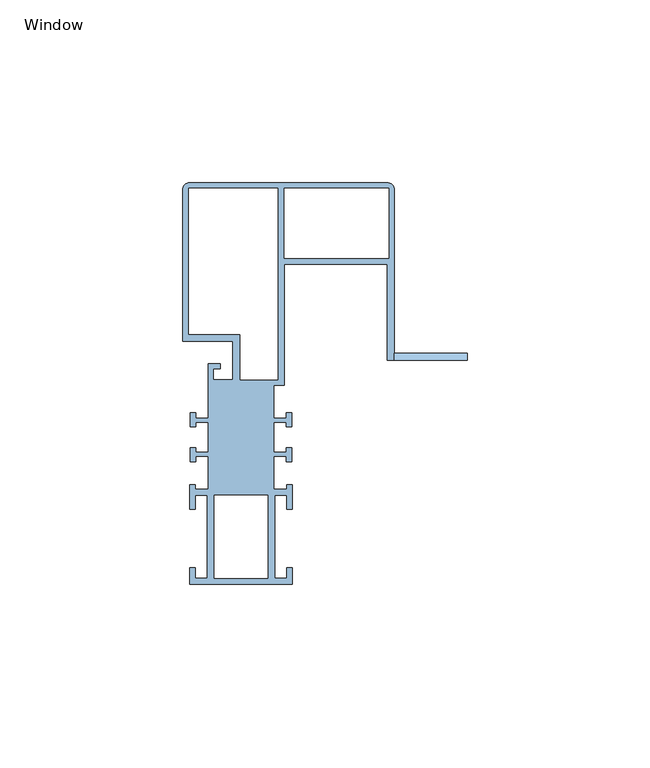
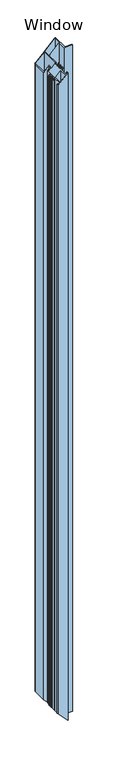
"""IFC4 building model written with IfcOpenShell, lengths in millimetres: window geometry, QO-H-QBISS_Window Module : Window."""

from ifc_helpers import new_model, si_unit, frame, origin, place, context, project, spatial, ellipse_curve, source, transform, mapped, element, save
from ifc_brep_helpers import plane_surface, cylinder_surface, advanced_brep


def window_a3d85fab(model_context):
    return source(origin(), model_context, "Body", "AdvancedBrep", [
        advanced_brep(
        [(986.7500002, -46.7, -4.0), (1006.7490836, -46.7, -4.0), (1006.7490836, -48.7, -4.0), (986.7500002, -48.7, -4.0), (986.7500002, -46.7, 1973.0), (1006.7490836, -46.7, 1973.0), (1006.7490836, -48.7, 1973.0), (986.7500002, -48.7, 1973.0), (984.7490836, -48.7, 1970.9990835), (984.7490836, -48.7, -1.9990835), (984.7490836, -22.4, -1.9990835), (956.5500002, -22.4, 26.2), (956.5500002, -55.4999986, 26.2), (953.7023461, -55.4999986, 29.0476541), (953.7023461, -64.5037405, 29.0476541), (957.2023459, -64.5037405, 25.5476542), (957.2023459, -63.0037405, 25.5476542), (958.7023459, -63.0037405, 24.0476542), (958.7023459, -66.9037405, 24.0476542), (957.2023459, -66.9037405, 25.5476542), (957.2023459, -65.7037405, 25.5476542), (953.7023459, -65.7037405, 29.0476542), (953.7023459, -73.8037405, 29.0476542), (957.2023459, -73.8037405, 25.5476542), (957.2023459, -72.6037405, 25.5476542), (958.7023459, -72.6037405, 24.0476542), (958.7023459, -76.5037405, 24.0476542), (957.2023459, -76.5037405, 25.5476542), (957.2023459, -75.0037405, 25.5476542), (953.7023453, -75.0037405, 29.0476548), (953.7023453, -84.0037561, 29.0476548), (957.2518297, -84.0037561, 25.4981705), (957.2518297, -82.8037561, 25.4981705), (958.7518297, -82.8037561, 23.9981705), (958.7518297, -89.5037561, 23.9981705), (957.2518297, -89.5037561, 25.4981705), (957.2518297, -85.7037561, 25.4981705), (953.9518297, -85.7037561, 28.7981705), (953.9518297, -108.3037561, 28.7981705), (957.2518297, -108.3037561, 25.4981705), (957.2518297, -105.5037561, 25.4981705), (958.7518297, -105.5037561, 23.9981705), (958.7518297, -110.0037561, 23.9981705), (930.7518297, -110.0037561, 51.9981705), (930.7518297, -105.5037561, 51.9981705), (932.2518297, -105.5037561, 50.4981705), (932.2518297, -108.3037561, 50.4981705), (935.5518297, -108.3037561, 47.1981705), (935.5518297, -85.7037561, 47.1981705), (932.2518297, -85.7037561, 50.4981705), (932.2518297, -89.5037561, 50.4981705), (930.7518297, -89.5037561, 51.9981705), (930.7518297, -82.8037561, 51.9981705), (932.2518297, -82.8037561, 50.4981705), (932.2518297, -84.0037561, 50.4981705), (935.8013141, -84.0037561, 46.9486861), (935.8013141, -75.0037405, 46.9486861), (932.3013135, -75.0037405, 50.4486867), (932.3013135, -76.5037405, 50.4486867), (930.8013135, -76.5037405, 51.9486867), (930.8013135, -72.6037405, 51.9486867), (932.3013135, -72.6037405, 50.4486867), (932.3013135, -73.8037405, 50.4486867), (935.8013135, -73.8037405, 46.9486867), (935.8013135, -65.7037405, 46.9486867), (932.3013135, -65.7037405, 50.4486867), (932.3013135, -66.9037405, 50.4486867), (930.8013135, -66.9037405, 51.9486867), (930.8013135, -63.0037405, 51.9486867), (932.3013135, -63.0037405, 50.4486867), (932.3013135, -64.5037405, 50.4486867), (935.7500002, -64.5037405, 47.0), (935.7500002, -49.6, 47.0), (939.0500002, -49.6, 43.7), (939.0500002, -51.0, 43.7), (937.1500002, -51.0, 45.6), (937.1500002, -54.0, 45.6), (942.5500002, -54.0, 40.2), (942.5500002, -43.5, 40.2), (928.7500002, -43.5, 54.0), (928.7500002, -2.0, 54.0), (930.7500002, 0.0, 52.0), (984.7500002, 0.0, -2.0), (986.7500002, -2.0, -4.0), (985.2500002, -1.5, -2.5), (956.5500002, -1.5, 26.2), (956.5500002, -20.7, 26.2), (985.2500002, -20.7, -2.5), (930.4500002, -41.5, 52.3), (944.5500002, -41.5, 38.2), (944.5500002, -54.0, 38.2), (954.8500002, -54.0, 27.9), (954.8500002, -1.5, 27.9), (930.4500002, -1.5, 52.3), (937.4518297, -85.7037561, 45.2981705), (937.4518297, -108.3037561, 45.2981705), (952.0518297, -108.3037561, 30.6981705), (952.0518297, -85.7037561, 30.6981705), (957.2023459, -75.0037405, 1943.4523458), (953.7023453, -75.0037405, 1939.9523452), (957.2023459, -76.5037405, 1943.4523458), (953.7023453, -84.0037561, 1939.9523452), (958.7023459, -76.5037405, 1944.9523458), (958.7023459, -72.6037405, 1944.9523458), (957.2023459, -72.6037405, 1943.4523458), (957.2023459, -73.8037405, 1943.4523458), (953.7023459, -73.8037405, 1939.9523458), (953.7023459, -65.7037405, 1939.9523458), (957.2023459, -65.7037405, 1943.4523458), (957.2023459, -66.9037405, 1943.4523458), (958.7023459, -66.9037405, 1944.9523458), (958.7023459, -63.0037405, 1944.9523458), (957.2023459, -63.0037405, 1943.4523458), (957.2023459, -64.5037405, 1943.4523458), (953.7023461, -64.5037405, 1939.9523459), (953.7023461, -55.4999986, 1939.9523459), (956.5500002, -55.4999986, 1942.8), (956.5500002, -22.4, 1942.8), (984.7490836, -22.4, 1970.9990835), (986.7500002, -2.0, 1973.0), (984.7500002, 0.0, 1971.0), (930.7500002, 0.0, 1917.0), (928.7500002, -2.0, 1915.0), (928.7500002, -43.5, 1915.0), (942.5500002, -43.5, 1928.8), (942.5500002, -54.0, 1928.8), (937.1500002, -54.0, 1923.4), (937.1500002, -51.0, 1923.4), (939.0500002, -51.0, 1925.3), (939.0500002, -49.6, 1925.3), (935.7500002, -49.6, 1922.0), (935.7500002, -64.5037405, 1922.0), (932.3013135, -64.5037405, 1918.5513133), (932.3013135, -63.0037405, 1918.5513133), (930.8013135, -63.0037405, 1917.0513133), (930.8013135, -66.9037405, 1917.0513133), (932.3013135, -66.9037405, 1918.5513133), (932.3013135, -65.7037405, 1918.5513133), (935.8013135, -65.7037405, 1922.0513133), (935.8013135, -73.8037405, 1922.0513133), (932.3013135, -73.8037405, 1918.5513133), (932.3013135, -72.6037405, 1918.5513133), (930.8013135, -72.6037405, 1917.0513133), (930.8013135, -76.5037405, 1917.0513133), (932.3013135, -76.5037405, 1918.5513133), (932.3013135, -75.0037405, 1918.5513133), (935.8013141, -75.0037405, 1922.0513139), (935.8013141, -84.0037561, 1922.0513139), (932.2518297, -84.0037561, 1918.5018295), (932.2518297, -82.8037561, 1918.5018295), (930.7518297, -82.8037561, 1917.0018295), (930.7518297, -89.5037561, 1917.0018295), (932.2518297, -89.5037561, 1918.5018295), (932.2518297, -85.7037561, 1918.5018295), (935.5518297, -85.7037561, 1921.8018295), (935.5518297, -108.3037561, 1921.8018295), (932.2518297, -108.3037561, 1918.5018295), (932.2518297, -105.5037561, 1918.5018295), (930.7518297, -105.5037561, 1917.0018295), (930.7518297, -110.0037561, 1917.0018295), (958.7518297, -110.0037561, 1945.0018295), (958.7518297, -105.5037561, 1945.0018295), (957.2518297, -105.5037561, 1943.5018295), (957.2518297, -108.3037561, 1943.5018295), (953.9518297, -108.3037561, 1940.2018295), (953.9518297, -85.7037561, 1940.2018295), (957.2518297, -85.7037561, 1943.5018295), (957.2518297, -89.5037561, 1943.5018295), (958.7518297, -89.5037561, 1945.0018295), (958.7518297, -82.8037561, 1945.0018295), (957.2518297, -82.8037561, 1943.5018295), (957.2518297, -84.0037561, 1943.5018295), (985.2500002, -1.5, 1971.5), (956.5500002, -1.5, 1942.8), (985.2500002, -20.7, 1971.5), (956.5500002, -20.7, 1942.8), (930.4500002, -41.5, 1916.7), (944.5500002, -41.5, 1930.8), (930.4500002, -1.5, 1916.7), (944.5500002, -54.0, 1930.8), (954.8500002, -1.5, 1941.1), (954.8500002, -54.0, 1941.1), (937.4518297, -85.7037561, 1923.7018295), (937.4518297, -108.3037561, 1923.7018295), (952.0518297, -85.7037561, 1938.3018295), (952.0518297, -108.3037561, 1938.3018295)],
        [
            (0, 1),
            (1, 2),
            (2, 3),
            (3, 0),
            (4, 5),
            (5, 1),
            (0, 4),
            (5, 6),
            (6, 2),
            (6, 7),
            (7, 8),
            (8, 9),
            (9, 3),
            (9, 10),
            (10, 11),
            (11, 12),
            (12, 13),
            (13, 14),
            (14, 15),
            (15, 16),
            (16, 17),
            (17, 18),
            (18, 19),
            (19, 20),
            (20, 21),
            (21, 22),
            (22, 23),
            (23, 24),
            (24, 25),
            (25, 26),
            (26, 27),
            (27, 28),
            (28, 29),
            (29, 30),
            (30, 31),
            (31, 32),
            (32, 33),
            (33, 34),
            (34, 35),
            (35, 36),
            (36, 37),
            (37, 38),
            (38, 39),
            (39, 40),
            (40, 41),
            (41, 42),
            (42, 43),
            (43, 44),
            (44, 45),
            (45, 46),
            (46, 47),
            (47, 48),
            (48, 49),
            (49, 50),
            (50, 51),
            (51, 52),
            (52, 53),
            (53, 54),
            (54, 55),
            (55, 56),
            (56, 57),
            (57, 58),
            (58, 59),
            (59, 60),
            (60, 61),
            (61, 62),
            (62, 63),
            (63, 64),
            (64, 65),
            (65, 66),
            (66, 67),
            (67, 68),
            (68, 69),
            (69, 70),
            (70, 71),
            (71, 72),
            (72, 73),
            (73, 74),
            (74, 75),
            (75, 76),
            (76, 77),
            (77, 78),
            (78, 79),
            (79, 80),
            (80, 81, ellipse_curve(frame((930.7500002, -2.0, 52.0), z_axis=(-0.7071067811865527, 0.0, -0.7071067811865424), x_axis=(-0.7071067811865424, 0.0, 0.7071067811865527)), 2.8284271, 2.0)),
            (81, 82),
            (82, 83, ellipse_curve(frame((984.7500002, -2.0, -2.0), z_axis=(-0.7071067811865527, 0.0, -0.7071067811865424), x_axis=(-0.7071067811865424, 0.0, 0.7071067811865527)), 2.8284271, 2.0)),
            (83, 0),
            (84, 85),
            (85, 86),
            (86, 87),
            (87, 84),
            (88, 89),
            (89, 90),
            (90, 91),
            (91, 92),
            (92, 93),
            (93, 88),
            (94, 95),
            (95, 96),
            (96, 97),
            (97, 94),
            (28, 98),
            (98, 99),
            (99, 29),
            (27, 100),
            (100, 98),
            (99, 101),
            (101, 30),
            (26, 102),
            (102, 100),
            (25, 103),
            (103, 102),
            (24, 104),
            (104, 103),
            (23, 105),
            (105, 104),
            (22, 106),
            (106, 105),
            (21, 107),
            (107, 106),
            (20, 108),
            (108, 107),
            (19, 109),
            (109, 108),
            (18, 110),
            (110, 109),
            (17, 111),
            (111, 110),
            (16, 112),
            (112, 111),
            (15, 113),
            (113, 112),
            (14, 114),
            (114, 113),
            (13, 115),
            (115, 114),
            (12, 116),
            (116, 115),
            (11, 117),
            (117, 116),
            (10, 118),
            (118, 117),
            (8, 118),
            (83, 119),
            (119, 4),
            (82, 120),
            (120, 119, ellipse_curve(frame((984.7500002, -2.0, 1971.0), z_axis=(0.7071067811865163, 0.0, -0.7071067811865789), x_axis=(0.7071067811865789, 0.0, 0.7071067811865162)), 2.8284271, 2.0)),
            (81, 121),
            (121, 120),
            (80, 122),
            (122, 121, ellipse_curve(frame((930.7500002, -2.0, 1917.0), z_axis=(0.7071067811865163, 0.0, -0.7071067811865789), x_axis=(0.7071067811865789, 0.0, 0.7071067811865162)), 2.8284271, 2.0)),
            (79, 123),
            (123, 122),
            (78, 124),
            (124, 123),
            (77, 125),
            (125, 124),
            (76, 126),
            (126, 125),
            (75, 127),
            (127, 126),
            (74, 128),
            (128, 127),
            (73, 129),
            (129, 128),
            (72, 130),
            (130, 129),
            (71, 131),
            (131, 130),
            (70, 132),
            (132, 131),
            (69, 133),
            (133, 132),
            (68, 134),
            (134, 133),
            (67, 135),
            (135, 134),
            (66, 136),
            (136, 135),
            (65, 137),
            (137, 136),
            (64, 138),
            (138, 137),
            (63, 139),
            (139, 138),
            (62, 140),
            (140, 139),
            (61, 141),
            (141, 140),
            (60, 142),
            (142, 141),
            (59, 143),
            (143, 142),
            (58, 144),
            (144, 143),
            (57, 145),
            (145, 144),
            (56, 146),
            (146, 145),
            (55, 147),
            (147, 146),
            (54, 148),
            (148, 147),
            (53, 149),
            (149, 148),
            (52, 150),
            (150, 149),
            (51, 151),
            (151, 150),
            (50, 152),
            (152, 151),
            (49, 153),
            (153, 152),
            (48, 154),
            (154, 153),
            (47, 155),
            (155, 154),
            (46, 156),
            (156, 155),
            (45, 157),
            (157, 156),
            (44, 158),
            (158, 157),
            (43, 159),
            (159, 158),
            (42, 160),
            (160, 159),
            (41, 161),
            (161, 160),
            (40, 162),
            (162, 161),
            (39, 163),
            (163, 162),
            (38, 164),
            (164, 163),
            (37, 165),
            (165, 164),
            (36, 166),
            (166, 165),
            (35, 167),
            (167, 166),
            (34, 168),
            (168, 167),
            (33, 169),
            (169, 168),
            (32, 170),
            (170, 169),
            (31, 171),
            (171, 170),
            (101, 171),
            (84, 172),
            (172, 173),
            (173, 85),
            (87, 174),
            (174, 172),
            (173, 175),
            (175, 86),
            (175, 174),
            (88, 176),
            (176, 177),
            (177, 89),
            (93, 178),
            (178, 176),
            (177, 179),
            (179, 90),
            (92, 180),
            (180, 178),
            (91, 181),
            (181, 180),
            (179, 181),
            (94, 182),
            (182, 183),
            (183, 95),
            (97, 184),
            (184, 182),
            (183, 185),
            (185, 96),
            (185, 184),
            (4, 7),
        ],
        [
            plane_surface(frame((999.2500002, 0.0, -4.0), z_axis=(0.0, 0.0, -1.0), x_axis=(0.0, -1.0, 0.0))),
            plane_surface(frame((1006.7490836, -46.7, 1973.0), z_axis=(0.0, 1.0, 0.0), x_axis=(0.0, 0.0, -1.0))),
            plane_surface(frame((1006.7490836, -48.7, 1973.0), z_axis=(1.0, 0.0, 0.0), x_axis=(0.0, 0.0, -1.0))),
            plane_surface(frame((984.7490836, -48.7, 1973.0), z_axis=(0.0, -1.0, 0.0), x_axis=(0.0, 0.0, -1.0))),
            plane_surface(frame((986.7500002, -180.0, -4.0), z_axis=(-0.7071067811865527, 0.0, -0.7071067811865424), x_axis=(0.0, 1.0, 0.0))),
            plane_surface(frame((953.7023453, -75.0037405, 1973.0), z_axis=(0.0, -1.0, 0.0), x_axis=(0.0, 0.0, -1.0))),
            plane_surface(frame((957.2023459, -75.0037405, 1973.0), z_axis=(-1.0, 0.0, 0.0), x_axis=(0.0, 0.0, -1.0))),
            plane_surface(frame((953.7023453, -84.0037561, 1973.0), z_axis=(1.0, 0.0, 0.0), x_axis=(0.0, 0.0, -1.0))),
            plane_surface(frame((957.2023459, -76.5037405, 1973.0), z_axis=(0.0, -1.0, 0.0), x_axis=(0.0, 0.0, -1.0))),
            plane_surface(frame((958.7023459, -76.5037405, 1973.0), z_axis=(1.0, 0.0, 0.0), x_axis=(0.0, 0.0, -1.0))),
            plane_surface(frame((958.7023459, -72.6037405, 1973.0), z_axis=(0.0, 1.0, 0.0), x_axis=(0.0, 0.0, -1.0))),
            plane_surface(frame((957.2023459, -72.6037405, 1973.0), z_axis=(-1.0, 0.0, 0.0), x_axis=(0.0, 0.0, -1.0))),
            plane_surface(frame((957.2023459, -73.8037405, 1973.0), z_axis=(0.0, 1.0, 0.0), x_axis=(0.0, 0.0, -1.0))),
            plane_surface(frame((953.7023459, -73.8037405, 1973.0), z_axis=(1.0, 0.0, 0.0), x_axis=(0.0, 0.0, -1.0))),
            plane_surface(frame((953.7023459, -65.7037405, 1973.0), z_axis=(0.0, -1.0, 0.0), x_axis=(0.0, 0.0, -1.0))),
            plane_surface(frame((957.2023459, -65.7037405, 1973.0), z_axis=(-1.0, 0.0, 0.0), x_axis=(0.0, 0.0, -1.0))),
            plane_surface(frame((957.2023459, -66.9037405, 1973.0), z_axis=(0.0, -1.0, 0.0), x_axis=(0.0, 0.0, -1.0))),
            plane_surface(frame((958.7023459, -66.9037405, 1973.0), z_axis=(1.0, 0.0, 0.0), x_axis=(0.0, 0.0, -1.0))),
            plane_surface(frame((958.7023459, -63.0037405, 1973.0), z_axis=(0.0, 1.0, 0.0), x_axis=(0.0, 0.0, -1.0))),
            plane_surface(frame((957.2023459, -63.0037405, 1973.0), z_axis=(-1.0, 0.0, 0.0), x_axis=(0.0, 0.0, -1.0))),
            plane_surface(frame((957.2023459, -64.5037405, 1973.0), z_axis=(0.0, 1.0, 0.0), x_axis=(0.0, 0.0, -1.0))),
            plane_surface(frame((953.7023461, -64.5037405, 1973.0), z_axis=(1.0, 0.0, 0.0), x_axis=(0.0, 0.0, -1.0))),
            plane_surface(frame((953.7023461, -55.4999986, 1973.0), z_axis=(0.0, -1.0, 0.0), x_axis=(0.0, 0.0, -1.0))),
            plane_surface(frame((956.5500002, -55.4999986, 1973.0), z_axis=(1.0, 0.0, 0.0), x_axis=(0.0, 0.0, -1.0))),
            plane_surface(frame((956.5500002, -22.4, 1973.0), z_axis=(0.0, -1.0, 0.0), x_axis=(0.0, 0.0, -1.0))),
            plane_surface(frame((984.7490836, -22.4, 1973.0), z_axis=(-1.0, 0.0, 0.0), x_axis=(0.0, 0.0, -1.0))),
            plane_surface(frame((986.7500002, -46.7, 1973.0), z_axis=(1.0, 0.0, 0.0), x_axis=(0.0, 0.0, -1.0))),
            cylinder_surface(frame((984.7500002, -2.0, 1973.0), z_axis=(0.0, 0.0, 1.0), x_axis=(0.0, -1.0, 0.0)), 2.0),
            plane_surface(frame((984.7500002, 0.0, 1973.0), z_axis=(0.0, 1.0, 0.0), x_axis=(0.0, 0.0, -1.0))),
            cylinder_surface(frame((930.7500002, -2.0, 1973.0), z_axis=(0.0, 0.0, 1.0), x_axis=(0.0, -1.0, 0.0)), 2.0),
            plane_surface(frame((928.7500002, -2.0, 1973.0), z_axis=(-1.0, 0.0, 0.0), x_axis=(0.0, 0.0, -1.0))),
            plane_surface(frame((928.7500002, -43.5, 1973.0), z_axis=(0.0, -1.0, 0.0), x_axis=(0.0, 0.0, -1.0))),
            plane_surface(frame((942.5500002, -43.5, 1973.0), z_axis=(-1.0, 0.0, 0.0), x_axis=(0.0, 0.0, -1.0))),
            plane_surface(frame((942.5500002, -54.0, 1973.0), z_axis=(0.0, 1.0, 0.0), x_axis=(0.0, 0.0, -1.0))),
            plane_surface(frame((937.1500002, -54.0, 1973.0), z_axis=(1.0, 0.0, 0.0), x_axis=(0.0, 0.0, -1.0))),
            plane_surface(frame((937.1500002, -51.0, 1973.0), z_axis=(0.0, -1.0, 0.0), x_axis=(0.0, 0.0, -1.0))),
            plane_surface(frame((939.0500002, -51.0, 1973.0), z_axis=(1.0, 0.0, 0.0), x_axis=(0.0, 0.0, -1.0))),
            plane_surface(frame((939.0500002, -49.6, 1973.0), z_axis=(0.0, 1.0, 0.0), x_axis=(0.0, 0.0, -1.0))),
            plane_surface(frame((935.7500002, -49.6, 1973.0), z_axis=(-1.0, 0.0, 0.0), x_axis=(0.0, 0.0, -1.0))),
            plane_surface(frame((935.7500002, -64.5037405, 1973.0), z_axis=(0.0, 1.0, 0.0), x_axis=(0.0, 0.0, -1.0))),
            plane_surface(frame((932.3013135, -64.5037405, 1973.0), z_axis=(1.0, 0.0, 0.0), x_axis=(0.0, 0.0, -1.0))),
            plane_surface(frame((932.3013135, -63.0037405, 1973.0), z_axis=(0.0, 1.0, 0.0), x_axis=(0.0, 0.0, -1.0))),
            plane_surface(frame((930.8013135, -63.0037405, 1973.0), z_axis=(-1.0, 0.0, 0.0), x_axis=(0.0, 0.0, -1.0))),
            plane_surface(frame((930.8013135, -66.9037405, 1973.0), z_axis=(0.0, -1.0, 0.0), x_axis=(0.0, 0.0, -1.0))),
            plane_surface(frame((932.3013135, -66.9037405, 1973.0), z_axis=(1.0, 0.0, 0.0), x_axis=(0.0, 0.0, -1.0))),
            plane_surface(frame((932.3013135, -65.7037405, 1973.0), z_axis=(0.0, -1.0, 0.0), x_axis=(0.0, 0.0, -1.0))),
            plane_surface(frame((935.8013135, -65.7037405, 1973.0), z_axis=(-1.0, 0.0, 0.0), x_axis=(0.0, 0.0, -1.0))),
            plane_surface(frame((935.8013135, -73.8037405, 1973.0), z_axis=(0.0, 1.0, 0.0), x_axis=(0.0, 0.0, -1.0))),
            plane_surface(frame((932.3013135, -73.8037405, 1973.0), z_axis=(1.0, 0.0, 0.0), x_axis=(0.0, 0.0, -1.0))),
            plane_surface(frame((932.3013135, -72.6037405, 1973.0), z_axis=(0.0, 1.0, 0.0), x_axis=(0.0, 0.0, -1.0))),
            plane_surface(frame((930.8013135, -72.6037405, 1973.0), z_axis=(-1.0, 0.0, 0.0), x_axis=(0.0, 0.0, -1.0))),
            plane_surface(frame((930.8013135, -76.5037405, 1973.0), z_axis=(0.0, -1.0, 0.0), x_axis=(0.0, 0.0, -1.0))),
            plane_surface(frame((932.3013135, -76.5037405, 1973.0), z_axis=(1.0, 0.0, 0.0), x_axis=(0.0, 0.0, -1.0))),
            plane_surface(frame((932.3013135, -75.0037405, 1973.0), z_axis=(0.0, -1.0, 0.0), x_axis=(0.0, 0.0, -1.0))),
            plane_surface(frame((935.8013141, -75.0037405, 1973.0), z_axis=(-1.0, 0.0, 0.0), x_axis=(0.0, 0.0, -1.0))),
            plane_surface(frame((935.8013141, -84.0037561, 1973.0), z_axis=(0.0, 1.0, 0.0), x_axis=(0.0, 0.0, -1.0))),
            plane_surface(frame((932.2518297, -84.0037561, 1973.0), z_axis=(1.0, 0.0, 0.0), x_axis=(0.0, 0.0, -1.0))),
            plane_surface(frame((932.2518297, -82.8037561, 1973.0), z_axis=(0.0, 1.0, 0.0), x_axis=(0.0, 0.0, -1.0))),
            plane_surface(frame((930.7518297, -82.8037561, 1973.0), z_axis=(-1.0, 0.0, 0.0), x_axis=(0.0, 0.0, -1.0))),
            plane_surface(frame((930.7518297, -89.5037561, 1973.0), z_axis=(0.0, -1.0, 0.0), x_axis=(0.0, 0.0, -1.0))),
            plane_surface(frame((932.2518297, -89.5037561, 1973.0), z_axis=(1.0, 0.0, 0.0), x_axis=(0.0, 0.0, -1.0))),
            plane_surface(frame((932.2518297, -85.7037561, 1973.0), z_axis=(0.0, -1.0, 0.0), x_axis=(0.0, 0.0, -1.0))),
            plane_surface(frame((935.5518297, -85.7037561, 1973.0), z_axis=(-1.0, 0.0, 0.0), x_axis=(0.0, 0.0, -1.0))),
            plane_surface(frame((935.5518297, -108.3037561, 1973.0), z_axis=(0.0, 1.0, 0.0), x_axis=(0.0, 0.0, -1.0))),
            plane_surface(frame((932.2518297, -108.3037561, 1973.0), z_axis=(1.0, 0.0, 0.0), x_axis=(0.0, 0.0, -1.0))),
            plane_surface(frame((932.2518297, -105.5037561, 1973.0), z_axis=(0.0, 1.0, 0.0), x_axis=(0.0, 0.0, -1.0))),
            plane_surface(frame((930.7518297, -105.5037561, 1973.0), z_axis=(-1.0, 0.0, 0.0), x_axis=(0.0, 0.0, -1.0))),
            plane_surface(frame((930.7518297, -110.0037561, 1973.0), z_axis=(0.0, -1.0, 0.0), x_axis=(0.0, 0.0, -1.0))),
            plane_surface(frame((958.7518297, -110.0037561, 1973.0), z_axis=(1.0, 0.0, 0.0), x_axis=(0.0, 0.0, -1.0))),
            plane_surface(frame((958.7518297, -105.5037561, 1973.0), z_axis=(0.0, 1.0, 0.0), x_axis=(0.0, 0.0, -1.0))),
            plane_surface(frame((957.2518297, -105.5037561, 1973.0), z_axis=(-1.0, 0.0, 0.0), x_axis=(0.0, 0.0, -1.0))),
            plane_surface(frame((957.2518297, -108.3037561, 1973.0), z_axis=(0.0, 1.0, 0.0), x_axis=(0.0, 0.0, -1.0))),
            plane_surface(frame((953.9518297, -108.3037561, 1973.0), z_axis=(1.0, 0.0, 0.0), x_axis=(0.0, 0.0, -1.0))),
            plane_surface(frame((953.9518297, -85.7037561, 1973.0), z_axis=(0.0, -1.0, 0.0), x_axis=(0.0, 0.0, -1.0))),
            plane_surface(frame((957.2518297, -85.7037561, 1973.0), z_axis=(-1.0, 0.0, 0.0), x_axis=(0.0, 0.0, -1.0))),
            plane_surface(frame((957.2518297, -89.5037561, 1973.0), z_axis=(0.0, -1.0, 0.0), x_axis=(0.0, 0.0, -1.0))),
            plane_surface(frame((958.7518297, -89.5037561, 1973.0), z_axis=(1.0, 0.0, 0.0), x_axis=(0.0, 0.0, -1.0))),
            plane_surface(frame((958.7518297, -82.8037561, 1973.0), z_axis=(0.0, 1.0, 0.0), x_axis=(0.0, 0.0, -1.0))),
            plane_surface(frame((957.2518297, -82.8037561, 1973.0), z_axis=(-1.0, 0.0, 0.0), x_axis=(0.0, 0.0, -1.0))),
            plane_surface(frame((957.2518297, -84.0037561, 1973.0), z_axis=(0.0, 1.0, 0.0), x_axis=(0.0, 0.0, -1.0))),
            plane_surface(frame((956.5500002, -1.5, 1973.0), z_axis=(0.0, -1.0, 0.0), x_axis=(0.0, 0.0, -1.0))),
            plane_surface(frame((985.2500002, -1.5, 1973.0), z_axis=(-1.0, 0.0, 0.0), x_axis=(0.0, 0.0, -1.0))),
            plane_surface(frame((956.5500002, -20.7, 1973.0), z_axis=(1.0, 0.0, 0.0), x_axis=(0.0, 0.0, -1.0))),
            plane_surface(frame((985.2500002, -20.7, 1973.0), z_axis=(0.0, 1.0, 0.0), x_axis=(0.0, 0.0, -1.0))),
            plane_surface(frame((944.5500002, -41.5, 1973.0), z_axis=(0.0, 1.0, 0.0), x_axis=(0.0, 0.0, -1.0))),
            plane_surface(frame((930.4500002, -41.5, 1973.0), z_axis=(1.0, 0.0, 0.0), x_axis=(0.0, 0.0, -1.0))),
            plane_surface(frame((944.5500002, -54.0, 1973.0), z_axis=(1.0, 0.0, 0.0), x_axis=(0.0, 0.0, -1.0))),
            plane_surface(frame((930.4500002, -1.5, 1973.0), z_axis=(0.0, -1.0, 0.0), x_axis=(0.0, 0.0, -1.0))),
            plane_surface(frame((954.8500002, -1.5, 1973.0), z_axis=(-1.0, 0.0, 0.0), x_axis=(0.0, 0.0, -1.0))),
            plane_surface(frame((954.8500002, -54.0, 1973.0), z_axis=(0.0, 1.0, 0.0), x_axis=(0.0, 0.0, -1.0))),
            plane_surface(frame((937.4518297, -108.3037561, 1973.0), z_axis=(1.0, 0.0, 0.0), x_axis=(0.0, 0.0, -1.0))),
            plane_surface(frame((937.4518297, -85.7037561, 1973.0), z_axis=(0.0, -1.0, 0.0), x_axis=(0.0, 0.0, -1.0))),
            plane_surface(frame((952.0518297, -108.3037561, 1973.0), z_axis=(0.0, 1.0, 0.0), x_axis=(0.0, 0.0, -1.0))),
            plane_surface(frame((952.0518297, -85.7037561, 1973.0), z_axis=(-1.0, 0.0, 0.0), x_axis=(0.0, 0.0, -1.0))),
            plane_surface(frame((999.2500002, 0.0, 1973.0), z_axis=(0.0, 0.0, 1.0), x_axis=(0.0, -1.0, 0.0))),
            plane_surface(frame((928.7500002, -180.0, 1915.0), z_axis=(-0.7071067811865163, 0.0, 0.7071067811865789), x_axis=(0.0, 1.0, 0.0))),
        ],
        [
            (0, [[1, 2, 3, 4]]),
            (1, [[5, 6, -1, 7]]),
            (2, [[8, 9, -2, -6]]),
            (3, [[-9, 10, 11, 12, 13, -3]]),
            (4, [[-4, -13, 14, 15, 16, 17, 18, 19, 20, 21, 22, 23, 24, 25, 26, 27, 28, 29, 30, 31, 32, 33, 34, 35, 36, 37, 38, 39, 40, 41, 42, 43, 44, 45, 46, 47, 48, 49, 50, 51, 52, 53, 54, 55, 56, 57, 58, 59, 60, 61, 62, 63, 64, 65, 66, 67, 68, 69, 70, 71, 72, 73, 74, 75, 76, 77, 78, 79, 80, 81, 82, 83, 84, 85, 86, 87, 88], [89, 90, 91, 92], [93, 94, 95, 96, 97, 98], [99, 100, 101, 102]]),
            (5, [[-33, 103, 104, 105]]),
            (6, [[-32, 106, 107, -103]]),
            (7, [[-34, -105, 108, 109]]),
            (8, [[-31, 110, 111, -106]]),
            (9, [[-30, 112, 113, -110]]),
            (10, [[-29, 114, 115, -112]]),
            (11, [[-28, 116, 117, -114]]),
            (12, [[-27, 118, 119, -116]]),
            (13, [[-26, 120, 121, -118]]),
            (14, [[-25, 122, 123, -120]]),
            (15, [[-24, 124, 125, -122]]),
            (16, [[-23, 126, 127, -124]]),
            (17, [[-22, 128, 129, -126]]),
            (18, [[-21, 130, 131, -128]]),
            (19, [[-20, 132, 133, -130]]),
            (20, [[-19, 134, 135, -132]]),
            (21, [[-18, 136, 137, -134]]),
            (22, [[-17, 138, 139, -136]]),
            (23, [[-16, 140, 141, -138]]),
            (24, [[-15, 142, 143, -140]]),
            (25, [[-14, -12, 144, -142]]),
            (26, [[-7, -88, 145, 146]]),
            (27, [[-145, -87, 147, 148]]),
            (28, [[-86, 149, 150, -147]]),
            (29, [[-85, 151, 152, -149]]),
            (30, [[-84, 153, 154, -151]]),
            (31, [[-83, 155, 156, -153]]),
            (32, [[-82, 157, 158, -155]]),
            (33, [[-81, 159, 160, -157]]),
            (34, [[-80, 161, 162, -159]]),
            (35, [[-79, 163, 164, -161]]),
            (36, [[-78, 165, 166, -163]]),
            (37, [[-77, 167, 168, -165]]),
            (38, [[-76, 169, 170, -167]]),
            (39, [[-75, 171, 172, -169]]),
            (40, [[-74, 173, 174, -171]]),
            (41, [[-73, 175, 176, -173]]),
            (42, [[-72, 177, 178, -175]]),
            (43, [[-71, 179, 180, -177]]),
            (44, [[-70, 181, 182, -179]]),
            (45, [[-69, 183, 184, -181]]),
            (46, [[-68, 185, 186, -183]]),
            (47, [[-67, 187, 188, -185]]),
            (48, [[-66, 189, 190, -187]]),
            (49, [[-65, 191, 192, -189]]),
            (50, [[-64, 193, 194, -191]]),
            (51, [[-63, 195, 196, -193]]),
            (52, [[-62, 197, 198, -195]]),
            (53, [[-61, 199, 200, -197]]),
            (54, [[-60, 201, 202, -199]]),
            (55, [[-59, 203, 204, -201]]),
            (56, [[-58, 205, 206, -203]]),
            (57, [[-57, 207, 208, -205]]),
            (58, [[-56, 209, 210, -207]]),
            (59, [[-55, 211, 212, -209]]),
            (60, [[-54, 213, 214, -211]]),
            (61, [[-53, 215, 216, -213]]),
            (62, [[-52, 217, 218, -215]]),
            (63, [[-51, 219, 220, -217]]),
            (64, [[-50, 221, 222, -219]]),
            (65, [[-49, 223, 224, -221]]),
            (66, [[-48, 225, 226, -223]]),
            (67, [[-47, 227, 228, -225]]),
            (68, [[-46, 229, 230, -227]]),
            (69, [[-45, 231, 232, -229]]),
            (70, [[-44, 233, 234, -231]]),
            (71, [[-43, 235, 236, -233]]),
            (72, [[-42, 237, 238, -235]]),
            (73, [[-41, 239, 240, -237]]),
            (74, [[-40, 241, 242, -239]]),
            (75, [[-39, 243, 244, -241]]),
            (76, [[-38, 245, 246, -243]]),
            (77, [[-37, 247, 248, -245]]),
            (78, [[-36, 249, 250, -247]]),
            (79, [[-35, -109, 251, -249]]),
            (80, [[-89, 252, 253, 254]]),
            (81, [[-92, 255, 256, -252]]),
            (82, [[-90, -254, 257, 258]]),
            (83, [[-91, -258, 259, -255]]),
            (84, [[-93, 260, 261, 262]]),
            (85, [[-98, 263, 264, -260]]),
            (86, [[-94, -262, 265, 266]]),
            (87, [[-97, 267, 268, -263]]),
            (88, [[-96, 269, 270, -267]]),
            (89, [[-95, -266, 271, -269]]),
            (90, [[-99, 272, 273, 274]]),
            (91, [[-102, 275, 276, -272]]),
            (92, [[-100, -274, 277, 278]]),
            (93, [[-101, -278, 279, -275]]),
            (94, [[-8, -5, 280, -10]]),
            (95, [[-280, -146, -148, -150, -152, -154, -156, -158, -160, -162, -164, -166, -168, -170, -172, -174, -176, -178, -180, -182, -184, -186, -188, -190, -192, -194, -196, -198, -200, -202, -204, -206, -208, -210, -212, -214, -216, -218, -220, -222, -224, -226, -228, -230, -232, -234, -236, -238, -240, -242, -244, -246, -248, -250, -251, -108, -104, -107, -111, -113, -115, -117, -119, -121, -123, -125, -127, -129, -131, -133, -135, -137, -139, -141, -143, -144, -11], [-253, -256, -259, -257], [-261, -264, -268, -270, -271, -265], [-273, -276, -279, -277]]),
        ],
    ),
    ])


if __name__ == "__main__":
    model = new_model("IFC4")
    model_context = context("Model", 3, world=origin())
    ifc_project = project(units=[si_unit("LENGTHUNIT", "METRE", prefix="MILLI")], contexts=[model_context])
    site = spatial("IfcSite", under=ifc_project)
    building = spatial("IfcBuilding", under=site)
    placement = place(None, origin())
    window_shape = window_a3d85fab(model_context)
    element("IfcWindow", 1, ObjectType="QO-H-QBISS_Window Module : Window", at=placement, inside=building, context=model_context, shape_type="MappedRepresentation", body=[
        mapped(window_shape, transform((0.0, 0.0, 0.0), x_axis=(1.0, 0.0, 0.0), y_axis=(0.0, 1.0, 0.0), z_axis=(0.0, 0.0, 1.0))),
    ])
    save(model, "model.ifc")
